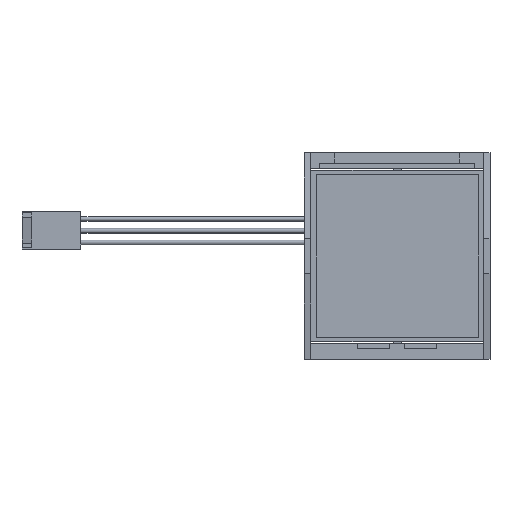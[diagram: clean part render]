
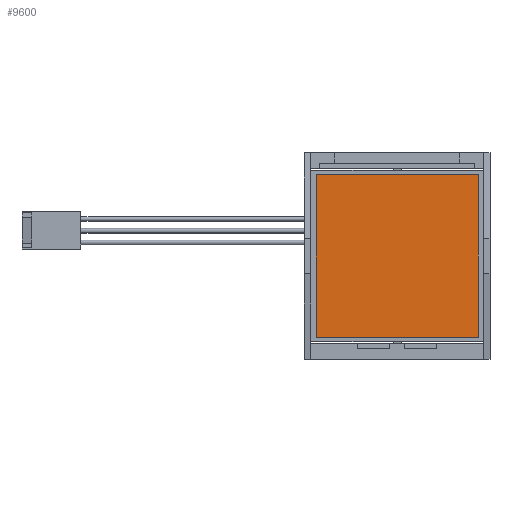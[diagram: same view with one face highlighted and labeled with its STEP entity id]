
A CAD part, front view. The second image highlights one B-rep face of the part: STEP entity #9600.
In plain terms, the highlighted planar face has unit normal (0, -1, 0).
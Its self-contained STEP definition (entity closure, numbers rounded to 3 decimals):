
#60 = DIRECTION ( 'NONE',  ( 0., 1., 0. ) ) ;
#987 = CARTESIAN_POINT ( 'NONE',  ( 9.363, -25.999, 62.305 ) ) ;
#1114 = EDGE_CURVE ( 'NONE', #18644, #8964, #31736, .T. ) ;
#7308 = DIRECTION ( 'NONE',  ( 0., 0., 1. ) ) ;
#8964 = VERTEX_POINT ( 'NONE', #987 ) ;
#9492 = VECTOR ( 'NONE', #42765, 1000. ) ;
#9600 = ADVANCED_FACE ( 'NONE', ( #50608 ), #55897, .F. ) ;
#9993 = EDGE_CURVE ( 'NONE', #67474, #18644, #67760, .T. ) ;
#12951 = CARTESIAN_POINT ( 'NONE',  ( -25.637, -25.999, 62.305 ) ) ;
#14134 = DIRECTION ( 'NONE',  ( 1., 0., 0. ) ) ;
#16789 = EDGE_LOOP ( 'NONE', ( #32256, #21132, #34373, #69362 ) ) ;
#18031 = AXIS2_PLACEMENT_3D ( 'NONE', #12951, #60, #7308 ) ;
#18644 = VERTEX_POINT ( 'NONE', #47018 ) ;
#21132 = ORIENTED_EDGE ( 'NONE', *, *, #42912, .F. ) ;
#22489 = VECTOR ( 'NONE', #50811, 1000. ) ;
#26052 = CARTESIAN_POINT ( 'NONE',  ( 9.363, -25.999, 62.305 ) ) ;
#31502 = LINE ( 'NONE', #58828, #63846 ) ;
#31736 = LINE ( 'NONE', #26052, #9492 ) ;
#32256 = ORIENTED_EDGE ( 'NONE', *, *, #59791, .F. ) ;
#34373 = ORIENTED_EDGE ( 'NONE', *, *, #1114, .F. ) ;
#35535 = LINE ( 'NONE', #40159, #22489 ) ;
#40159 = CARTESIAN_POINT ( 'NONE',  ( -25.637, -25.999, 62.305 ) ) ;
#40374 = CARTESIAN_POINT ( 'NONE',  ( -25.637, -25.999, 97.305 ) ) ;
#42765 = DIRECTION ( 'NONE',  ( 0., 0., -1. ) ) ;
#42912 = EDGE_CURVE ( 'NONE', #8964, #57750, #35535, .T. ) ;
#46099 = CARTESIAN_POINT ( 'NONE',  ( -25.637, -25.999, 97.305 ) ) ;
#47018 = CARTESIAN_POINT ( 'NONE',  ( 9.363, -25.999, 97.305 ) ) ;
#50608 = FACE_OUTER_BOUND ( 'NONE', #16789, .T. ) ;
#50811 = DIRECTION ( 'NONE',  ( -1., 0., 0. ) ) ;
#55897 = PLANE ( 'NONE',  #18031 ) ;
#57179 = VECTOR ( 'NONE', #14134, 1000. ) ;
#57362 = CARTESIAN_POINT ( 'NONE',  ( -25.637, -25.999, 62.305 ) ) ;
#57750 = VERTEX_POINT ( 'NONE', #57362 ) ;
#57787 = DIRECTION ( 'NONE',  ( 0., 0., 1. ) ) ;
#58828 = CARTESIAN_POINT ( 'NONE',  ( -25.637, -25.999, 62.305 ) ) ;
#59791 = EDGE_CURVE ( 'NONE', #57750, #67474, #31502, .T. ) ;
#63846 = VECTOR ( 'NONE', #57787, 1000. ) ;
#67474 = VERTEX_POINT ( 'NONE', #40374 ) ;
#67760 = LINE ( 'NONE', #46099, #57179 ) ;
#69362 = ORIENTED_EDGE ( 'NONE', *, *, #9993, .F. ) ;
